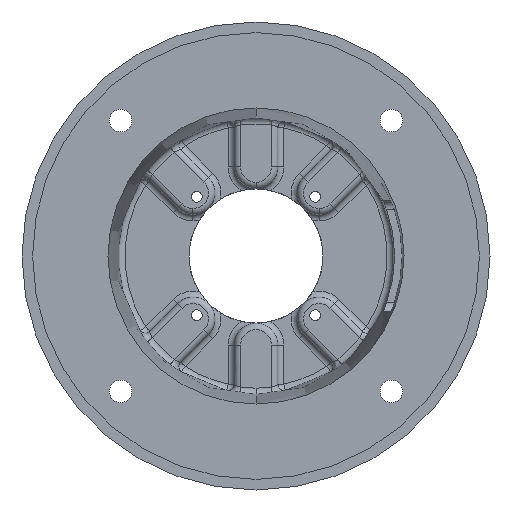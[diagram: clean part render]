
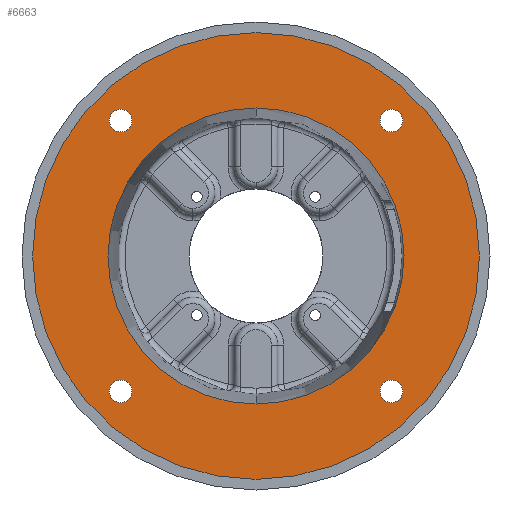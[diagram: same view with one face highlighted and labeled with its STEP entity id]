
A CAD part, front view. The second image highlights one B-rep face of the part: STEP entity #6663.
In plain terms, the highlighted planar face has unit normal (0, -1, 0).
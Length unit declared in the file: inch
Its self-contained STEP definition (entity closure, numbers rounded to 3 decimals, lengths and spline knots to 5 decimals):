
#13 = VERTEX_POINT ( 'NONE', #6252 ) ;
#585 = DIRECTION ( 'NONE',  ( 0., 0., -1. ) ) ;
#611 = CARTESIAN_POINT ( 'NONE',  ( -3.18198, 0.18, -3.44761 ) ) ;
#612 = AXIS2_PLACEMENT_3D ( 'NONE', #13228, #7083, #585 ) ;
#1008 = EDGE_CURVE ( 'NONE', #12559, #8522, #11515, .T. ) ;
#1091 = CARTESIAN_POINT ( 'NONE',  ( 0., 0.18, 3.47973 ) ) ;
#1176 = EDGE_CURVE ( 'NONE', #5045, #12706, #10225, .T. ) ;
#1274 = CARTESIAN_POINT ( 'NONE',  ( 3.18198, 0.18, 3.44761 ) ) ;
#1283 = CARTESIAN_POINT ( 'NONE',  ( 3.18198, 0.18, 3.18198 ) ) ;
#1377 = EDGE_CURVE ( 'NONE', #12756, #7536, #11667, .T. ) ;
#1480 = ORIENTED_EDGE ( 'NONE', *, *, #13672, .F. ) ;
#1639 = EDGE_LOOP ( 'NONE', ( #10462, #6137 ) ) ;
#1887 = DIRECTION ( 'NONE',  ( 0., -1., 0. ) ) ;
#1976 = CIRCLE ( 'NONE', #3075, 5.2505 ) ;
#2059 = CARTESIAN_POINT ( 'NONE',  ( -3.18198, 0.18, 3.18198 ) ) ;
#2106 = AXIS2_PLACEMENT_3D ( 'NONE', #11033, #10185, #10137 ) ;
#2368 = DIRECTION ( 'NONE',  ( 0., 0., -1. ) ) ;
#2406 = DIRECTION ( 'NONE',  ( 0., -1., 0. ) ) ;
#2727 = ORIENTED_EDGE ( 'NONE', *, *, #9336, .F. ) ;
#3010 = VERTEX_POINT ( 'NONE', #13676 ) ;
#3075 = AXIS2_PLACEMENT_3D ( 'NONE', #8351, #1887, #9373 ) ;
#3158 = DIRECTION ( 'NONE',  ( 0., 0., -1. ) ) ;
#3344 = EDGE_LOOP ( 'NONE', ( #2727, #1480 ) ) ;
#3382 = EDGE_CURVE ( 'NONE', #7536, #12756, #12548, .T. ) ;
#3504 = DIRECTION ( 'NONE',  ( 0., -1., 0. ) ) ;
#3652 = CARTESIAN_POINT ( 'NONE',  ( 0., 0.18, 0. ) ) ;
#3864 = CARTESIAN_POINT ( 'NONE',  ( 3.18198, 0.18, 3.18198 ) ) ;
#3871 = EDGE_LOOP ( 'NONE', ( #4290, #5551 ) ) ;
#4057 = CARTESIAN_POINT ( 'NONE',  ( -3.18198, 0.18, 2.91636 ) ) ;
#4095 = CIRCLE ( 'NONE', #13111, 0.26562 ) ;
#4252 = CIRCLE ( 'NONE', #12896, 5.2505 ) ;
#4290 = ORIENTED_EDGE ( 'NONE', *, *, #1008, .F. ) ;
#4292 = AXIS2_PLACEMENT_3D ( 'NONE', #3864, #11194, #4949 ) ;
#4370 = EDGE_CURVE ( 'NONE', #8522, #12559, #6424, .T. ) ;
#4429 = CARTESIAN_POINT ( 'NONE',  ( -3.18198, 0.18, -2.91636 ) ) ;
#4762 = DIRECTION ( 'NONE',  ( 0., 0., -1. ) ) ;
#4902 = AXIS2_PLACEMENT_3D ( 'NONE', #2059, #9541, #3158 ) ;
#4949 = DIRECTION ( 'NONE',  ( 0., 0., -1. ) ) ;
#5045 = VERTEX_POINT ( 'NONE', #7466 ) ;
#5235 = EDGE_LOOP ( 'NONE', ( #8432, #13105 ) ) ;
#5412 = EDGE_CURVE ( 'NONE', #13, #3010, #1976, .T. ) ;
#5442 = FACE_BOUND ( 'NONE', #6338, .T. ) ;
#5551 = ORIENTED_EDGE ( 'NONE', *, *, #4370, .F. ) ;
#6080 = PLANE ( 'NONE',  #11941 ) ;
#6092 = EDGE_CURVE ( 'NONE', #7255, #9863, #4095, .T. ) ;
#6137 = ORIENTED_EDGE ( 'NONE', *, *, #5412, .T. ) ;
#6199 = CIRCLE ( 'NONE', #4902, 0.26562 ) ;
#6252 = CARTESIAN_POINT ( 'NONE',  ( 0., 0.18, 5.2505 ) ) ;
#6338 = EDGE_LOOP ( 'NONE', ( #8118, #10936 ) ) ;
#6375 = AXIS2_PLACEMENT_3D ( 'NONE', #12569, #6404, #13585 ) ;
#6404 = DIRECTION ( 'NONE',  ( 0., -1., 0. ) ) ;
#6424 = CIRCLE ( 'NONE', #6375, 0.26562 ) ;
#6473 = FACE_BOUND ( 'NONE', #3344, .T. ) ;
#6498 = EDGE_CURVE ( 'NONE', #3010, #13, #4252, .T. ) ;
#6534 = CARTESIAN_POINT ( 'NONE',  ( -3.18198, 0.18, 3.44761 ) ) ;
#6663 = ADVANCED_FACE ( 'NONE', ( #6473, #13693, #11297, #10962, #8277, #5442 ), #6080, .T. ) ;
#7083 = DIRECTION ( 'NONE',  ( 0., -1., 0. ) ) ;
#7097 = VERTEX_POINT ( 'NONE', #4057 ) ;
#7152 = DIRECTION ( 'NONE',  ( 0., 0., -1. ) ) ;
#7255 = VERTEX_POINT ( 'NONE', #1274 ) ;
#7277 = CARTESIAN_POINT ( 'NONE',  ( 3.18198, 0.18, -3.44761 ) ) ;
#7466 = CARTESIAN_POINT ( 'NONE',  ( 0., 0.18, -3.47973 ) ) ;
#7536 = VERTEX_POINT ( 'NONE', #611 ) ;
#7585 = ORIENTED_EDGE ( 'NONE', *, *, #6092, .F. ) ;
#7741 = VERTEX_POINT ( 'NONE', #6534 ) ;
#7882 = ORIENTED_EDGE ( 'NONE', *, *, #12948, .F. ) ;
#7898 = DIRECTION ( 'NONE',  ( 0., 0., -1. ) ) ;
#8061 = CARTESIAN_POINT ( 'NONE',  ( 3.18198, 0.18, 2.91636 ) ) ;
#8100 = EDGE_CURVE ( 'NONE', #12706, #5045, #8258, .T. ) ;
#8118 = ORIENTED_EDGE ( 'NONE', *, *, #1176, .T. ) ;
#8258 = CIRCLE ( 'NONE', #8371, 3.47973 ) ;
#8277 = FACE_OUTER_BOUND ( 'NONE', #1639, .T. ) ;
#8351 = CARTESIAN_POINT ( 'NONE',  ( 0., 0.18, 0. ) ) ;
#8371 = AXIS2_PLACEMENT_3D ( 'NONE', #3652, #11004, #4762 ) ;
#8387 = EDGE_LOOP ( 'NONE', ( #7882, #7585 ) ) ;
#8432 = ORIENTED_EDGE ( 'NONE', *, *, #3382, .F. ) ;
#8522 = VERTEX_POINT ( 'NONE', #12435 ) ;
#8754 = DIRECTION ( 'NONE',  ( 0., -1., 0. ) ) ;
#8794 = CARTESIAN_POINT ( 'NONE',  ( -3.18198, 0.18, -3.18198 ) ) ;
#8814 = DIRECTION ( 'NONE',  ( 0., -1., 0. ) ) ;
#8844 = CARTESIAN_POINT ( 'NONE',  ( 0., 0.18, 0. ) ) ;
#8953 = DIRECTION ( 'NONE',  ( 0., 0., -1. ) ) ;
#8999 = DIRECTION ( 'NONE',  ( 0., 1., 0. ) ) ;
#9054 = CARTESIAN_POINT ( 'NONE',  ( 0., 0.18, 0. ) ) ;
#9179 = CARTESIAN_POINT ( 'NONE',  ( 0., 0.18, 0. ) ) ;
#9336 = EDGE_CURVE ( 'NONE', #7097, #7741, #6199, .T. ) ;
#9373 = DIRECTION ( 'NONE',  ( 0., 0., -1. ) ) ;
#9541 = DIRECTION ( 'NONE',  ( 0., -1., 0. ) ) ;
#9853 = CARTESIAN_POINT ( 'NONE',  ( -3.18198, 0.18, 3.18198 ) ) ;
#9854 = DIRECTION ( 'NONE',  ( 0., 0., -1. ) ) ;
#9863 = VERTEX_POINT ( 'NONE', #8061 ) ;
#10137 = DIRECTION ( 'NONE',  ( 0., 0., -1. ) ) ;
#10185 = DIRECTION ( 'NONE',  ( 0., -1., 0. ) ) ;
#10225 = CIRCLE ( 'NONE', #11343, 3.47973 ) ;
#10399 = AXIS2_PLACEMENT_3D ( 'NONE', #8794, #8754, #7898 ) ;
#10462 = ORIENTED_EDGE ( 'NONE', *, *, #6498, .T. ) ;
#10872 = DIRECTION ( 'NONE',  ( 0., 0., -1. ) ) ;
#10873 = CIRCLE ( 'NONE', #10976, 0.26562 ) ;
#10936 = ORIENTED_EDGE ( 'NONE', *, *, #8100, .T. ) ;
#10962 = FACE_BOUND ( 'NONE', #5235, .T. ) ;
#10976 = AXIS2_PLACEMENT_3D ( 'NONE', #9853, #3504, #10872 ) ;
#11004 = DIRECTION ( 'NONE',  ( 0., 1., 0. ) ) ;
#11033 = CARTESIAN_POINT ( 'NONE',  ( 3.18198, 0.18, -3.18198 ) ) ;
#11194 = DIRECTION ( 'NONE',  ( 0., -1., 0. ) ) ;
#11297 = FACE_BOUND ( 'NONE', #3871, .T. ) ;
#11343 = AXIS2_PLACEMENT_3D ( 'NONE', #9054, #8999, #8953 ) ;
#11515 = CIRCLE ( 'NONE', #2106, 0.26562 ) ;
#11667 = CIRCLE ( 'NONE', #10399, 0.26562 ) ;
#11941 = AXIS2_PLACEMENT_3D ( 'NONE', #9179, #13292, #7152 ) ;
#12435 = CARTESIAN_POINT ( 'NONE',  ( 3.18198, 0.18, -2.91636 ) ) ;
#12548 = CIRCLE ( 'NONE', #612, 0.26562 ) ;
#12559 = VERTEX_POINT ( 'NONE', #7277 ) ;
#12569 = CARTESIAN_POINT ( 'NONE',  ( 3.18198, 0.18, -3.18198 ) ) ;
#12658 = CIRCLE ( 'NONE', #4292, 0.26562 ) ;
#12706 = VERTEX_POINT ( 'NONE', #1091 ) ;
#12756 = VERTEX_POINT ( 'NONE', #4429 ) ;
#12896 = AXIS2_PLACEMENT_3D ( 'NONE', #8844, #2406, #9854 ) ;
#12948 = EDGE_CURVE ( 'NONE', #9863, #7255, #12658, .T. ) ;
#13105 = ORIENTED_EDGE ( 'NONE', *, *, #1377, .F. ) ;
#13111 = AXIS2_PLACEMENT_3D ( 'NONE', #1283, #8814, #2368 ) ;
#13228 = CARTESIAN_POINT ( 'NONE',  ( -3.18198, 0.18, -3.18198 ) ) ;
#13292 = DIRECTION ( 'NONE',  ( 0., -1., 0. ) ) ;
#13585 = DIRECTION ( 'NONE',  ( 0., 0., -1. ) ) ;
#13672 = EDGE_CURVE ( 'NONE', #7741, #7097, #10873, .T. ) ;
#13676 = CARTESIAN_POINT ( 'NONE',  ( 0., 0.18, -5.2505 ) ) ;
#13693 = FACE_BOUND ( 'NONE', #8387, .T. ) ;
